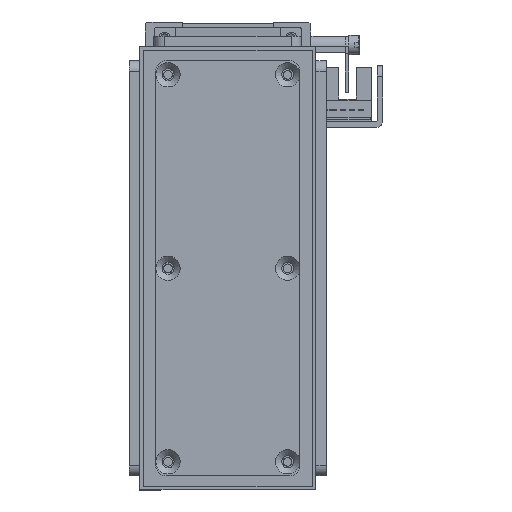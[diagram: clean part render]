
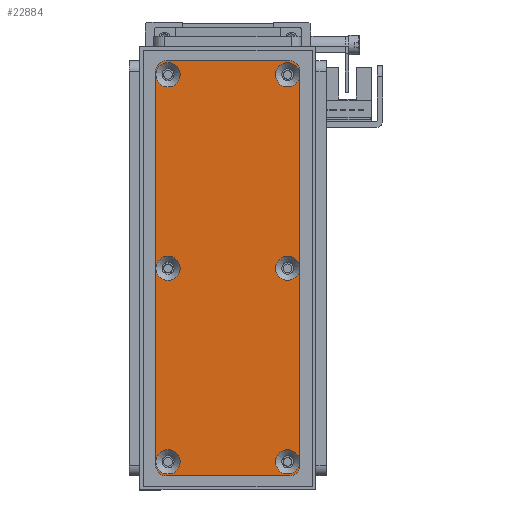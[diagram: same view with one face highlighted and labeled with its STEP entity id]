
A CAD part, front view. The second image highlights one B-rep face of the part: STEP entity #22884.
In plain terms, the highlighted planar face has unit normal (0, -1, 0) as drawn and (0, 0, 1) by its records, which use the part's own axes.
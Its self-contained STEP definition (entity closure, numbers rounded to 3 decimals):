
#758=FACE_BOUND('',#4326,.T.);
#759=FACE_BOUND('',#4327,.T.);
#760=FACE_BOUND('',#4328,.T.);
#761=FACE_BOUND('',#4329,.T.);
#762=FACE_BOUND('',#4330,.T.);
#763=FACE_BOUND('',#4331,.T.);
#1572=PLANE('',#25607);
#2744=FACE_OUTER_BOUND('',#4325,.T.);
#4325=EDGE_LOOP('',(#21051,#21052,#21053,#21054,#21055,#21056,#21057,#21058));
#4326=EDGE_LOOP('',(#21059));
#4327=EDGE_LOOP('',(#21060));
#4328=EDGE_LOOP('',(#21061));
#4329=EDGE_LOOP('',(#21062));
#4330=EDGE_LOOP('',(#21063));
#4331=EDGE_LOOP('',(#21064));
#6436=LINE('',#39841,#8545);
#6440=LINE('',#39853,#8549);
#6444=LINE('',#39865,#8553);
#6448=LINE('',#39875,#8557);
#8545=VECTOR('',#32026,10.);
#8549=VECTOR('',#32038,10.);
#8553=VECTOR('',#32050,10.);
#8557=VECTOR('',#32062,10.);
#9518=CIRCLE('',#25561,3.45);
#9521=CIRCLE('',#25566,3.45);
#9524=CIRCLE('',#25571,3.45);
#9527=CIRCLE('',#25576,3.45);
#9530=CIRCLE('',#25581,3.45);
#9533=CIRCLE('',#25586,3.45);
#9537=CIRCLE('',#25592,3.);
#9539=CIRCLE('',#25596,3.);
#9541=CIRCLE('',#25600,3.);
#9543=CIRCLE('',#25604,3.);
#11607=VERTEX_POINT('',#39769);
#11610=VERTEX_POINT('',#39779);
#11613=VERTEX_POINT('',#39789);
#11616=VERTEX_POINT('',#39799);
#11619=VERTEX_POINT('',#39809);
#11622=VERTEX_POINT('',#39819);
#11627=VERTEX_POINT('',#39832);
#11628=VERTEX_POINT('',#39834);
#11630=VERTEX_POINT('',#39840);
#11632=VERTEX_POINT('',#39846);
#11634=VERTEX_POINT('',#39852);
#11636=VERTEX_POINT('',#39858);
#11638=VERTEX_POINT('',#39864);
#11640=VERTEX_POINT('',#39870);
#14737=EDGE_CURVE('',#11607,#11607,#9518,.T.);
#14742=EDGE_CURVE('',#11610,#11610,#9521,.T.);
#14747=EDGE_CURVE('',#11613,#11613,#9524,.T.);
#14752=EDGE_CURVE('',#11616,#11616,#9527,.T.);
#14757=EDGE_CURVE('',#11619,#11619,#9530,.T.);
#14762=EDGE_CURVE('',#11622,#11622,#9533,.T.);
#14769=EDGE_CURVE('',#11628,#11627,#9537,.T.);
#14772=EDGE_CURVE('',#11630,#11628,#6436,.T.);
#14775=EDGE_CURVE('',#11632,#11630,#9539,.T.);
#14778=EDGE_CURVE('',#11634,#11632,#6440,.T.);
#14781=EDGE_CURVE('',#11636,#11634,#9541,.T.);
#14784=EDGE_CURVE('',#11638,#11636,#6444,.T.);
#14787=EDGE_CURVE('',#11640,#11638,#9543,.T.);
#14790=EDGE_CURVE('',#11627,#11640,#6448,.T.);
#21051=ORIENTED_EDGE('',*,*,#14790,.T.);
#21052=ORIENTED_EDGE('',*,*,#14787,.T.);
#21053=ORIENTED_EDGE('',*,*,#14784,.T.);
#21054=ORIENTED_EDGE('',*,*,#14781,.T.);
#21055=ORIENTED_EDGE('',*,*,#14778,.T.);
#21056=ORIENTED_EDGE('',*,*,#14775,.T.);
#21057=ORIENTED_EDGE('',*,*,#14772,.T.);
#21058=ORIENTED_EDGE('',*,*,#14769,.T.);
#21059=ORIENTED_EDGE('',*,*,#14737,.T.);
#21060=ORIENTED_EDGE('',*,*,#14742,.T.);
#21061=ORIENTED_EDGE('',*,*,#14747,.T.);
#21062=ORIENTED_EDGE('',*,*,#14752,.T.);
#21063=ORIENTED_EDGE('',*,*,#14757,.T.);
#21064=ORIENTED_EDGE('',*,*,#14762,.T.);
#22884=ADVANCED_FACE('',(#2744,#758,#759,#760,#761,#762,#763),#1572,.T.);
#25561=AXIS2_PLACEMENT_3D('',#39770,#31945,#31946);
#25566=AXIS2_PLACEMENT_3D('',#39780,#31957,#31958);
#25571=AXIS2_PLACEMENT_3D('',#39790,#31969,#31970);
#25576=AXIS2_PLACEMENT_3D('',#39800,#31981,#31982);
#25581=AXIS2_PLACEMENT_3D('',#39810,#31993,#31994);
#25586=AXIS2_PLACEMENT_3D('',#39820,#32005,#32006);
#25592=AXIS2_PLACEMENT_3D('',#39835,#32020,#32021);
#25596=AXIS2_PLACEMENT_3D('',#39847,#32032,#32033);
#25600=AXIS2_PLACEMENT_3D('',#39859,#32044,#32045);
#25604=AXIS2_PLACEMENT_3D('',#39871,#32056,#32057);
#25607=AXIS2_PLACEMENT_3D('',#39877,#32065,#32066);
#31945=DIRECTION('center_axis',(0.,0.,-1.));
#31946=DIRECTION('ref_axis',(1.,0.,0.));
#31957=DIRECTION('center_axis',(0.,0.,-1.));
#31958=DIRECTION('ref_axis',(1.,0.,0.));
#31969=DIRECTION('center_axis',(0.,0.,-1.));
#31970=DIRECTION('ref_axis',(1.,0.,0.));
#31981=DIRECTION('center_axis',(0.,0.,-1.));
#31982=DIRECTION('ref_axis',(1.,0.,0.));
#31993=DIRECTION('center_axis',(0.,0.,-1.));
#31994=DIRECTION('ref_axis',(1.,0.,0.));
#32005=DIRECTION('center_axis',(0.,0.,-1.));
#32006=DIRECTION('ref_axis',(1.,0.,0.));
#32020=DIRECTION('center_axis',(0.,0.,1.));
#32021=DIRECTION('ref_axis',(-1.,0.,0.));
#32026=DIRECTION('',(0.,1.,0.));
#32032=DIRECTION('center_axis',(0.,0.,1.));
#32033=DIRECTION('ref_axis',(0.,1.,0.));
#32038=DIRECTION('',(1.,0.,0.));
#32044=DIRECTION('center_axis',(0.,0.,1.));
#32045=DIRECTION('ref_axis',(1.,0.,0.));
#32050=DIRECTION('',(0.,-1.,0.));
#32056=DIRECTION('center_axis',(0.,0.,1.));
#32057=DIRECTION('ref_axis',(0.,-1.,0.));
#32062=DIRECTION('',(-1.,0.,0.));
#32065=DIRECTION('center_axis',(0.,0.,1.));
#32066=DIRECTION('ref_axis',(1.,0.,0.));
#39769=CARTESIAN_POINT('',(110.55,3.5,3.));
#39770=CARTESIAN_POINT('Origin',(114.,3.5,3.));
#39779=CARTESIAN_POINT('',(55.55,37.5,3.));
#39780=CARTESIAN_POINT('Origin',(59.,37.5,3.));
#39789=CARTESIAN_POINT('',(55.55,3.5,3.));
#39790=CARTESIAN_POINT('Origin',(59.,3.5,3.));
#39799=CARTESIAN_POINT('',(0.55,37.5,3.));
#39800=CARTESIAN_POINT('Origin',(4.,37.5,3.));
#39809=CARTESIAN_POINT('',(110.55,37.5,3.));
#39810=CARTESIAN_POINT('Origin',(114.,37.5,3.));
#39819=CARTESIAN_POINT('',(0.55,3.5,3.));
#39820=CARTESIAN_POINT('Origin',(4.,3.5,3.));
#39832=CARTESIAN_POINT('',(115.,41.,3.));
#39834=CARTESIAN_POINT('',(118.,38.,3.));
#39835=CARTESIAN_POINT('Origin',(115.,38.,3.));
#39840=CARTESIAN_POINT('',(118.,3.,3.));
#39841=CARTESIAN_POINT('',(118.,38.,3.));
#39846=CARTESIAN_POINT('',(115.,0.,3.));
#39847=CARTESIAN_POINT('Origin',(115.,3.,3.));
#39852=CARTESIAN_POINT('',(3.,0.,3.));
#39853=CARTESIAN_POINT('',(115.,0.,3.));
#39858=CARTESIAN_POINT('',(0.,3.,3.));
#39859=CARTESIAN_POINT('Origin',(3.,3.,3.));
#39864=CARTESIAN_POINT('',(0.,38.,3.));
#39865=CARTESIAN_POINT('',(0.,3.,3.));
#39870=CARTESIAN_POINT('',(3.,41.,3.));
#39871=CARTESIAN_POINT('Origin',(3.,38.,3.));
#39875=CARTESIAN_POINT('',(3.,41.,3.));
#39877=CARTESIAN_POINT('Origin',(59.,20.5,3.));
